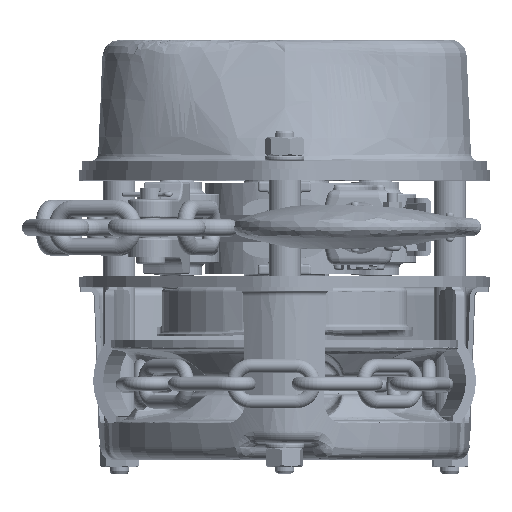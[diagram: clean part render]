
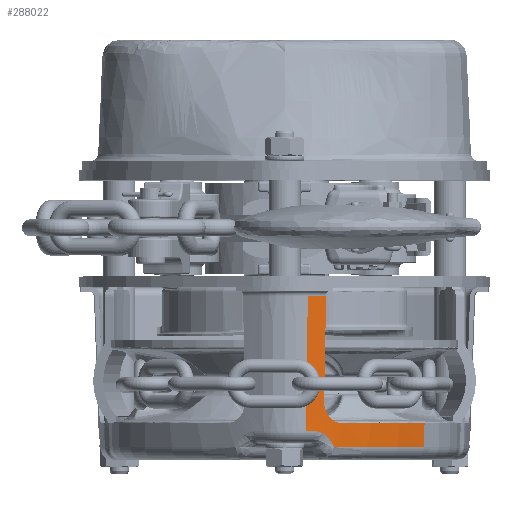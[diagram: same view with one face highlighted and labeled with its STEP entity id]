
A CAD part, top view. The second image highlights one B-rep face of the part: STEP entity #288022.
In plain terms, the highlighted conical face has half-angle 2 degrees and reference radius 151.599 mm.
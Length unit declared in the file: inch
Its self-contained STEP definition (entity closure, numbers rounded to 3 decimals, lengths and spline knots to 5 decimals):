
#2166 = CARTESIAN_POINT ( 'NONE',  ( 2.05686, -2.36853, 1.5554 ) ) ;
#3405 = CARTESIAN_POINT ( 'NONE',  ( 0.56342, -2.16345, 2.953 ) ) ;
#7305 = ORIENTED_EDGE ( 'NONE', *, *, #239595, .T. ) ;
#12205 = EDGE_CURVE ( 'NONE', #100996, #85996, #217280, .T. ) ;
#12337 = DIRECTION ( 'NONE',  ( 0., 0., -1. ) ) ;
#15358 = CARTESIAN_POINT ( 'NONE',  ( 0.61032, -1.83275, 2.93615 ) ) ;
#17294 = AXIS2_PLACEMENT_3D ( 'NONE', #308202, #133644, #12337 ) ;
#25688 = DIRECTION ( 'NONE',  ( 0., 0., 1. ) ) ;
#28071 = VECTOR ( 'NONE', #204523, 39.37008 ) ;
#30036 = CARTESIAN_POINT ( 'NONE',  ( 0.72453, -2.35258, 2.8369 ) ) ;
#38200 = CARTESIAN_POINT ( 'NONE',  ( 0.58512, -1.71376, 2.95762 ) ) ;
#43820 = EDGE_CURVE ( 'NONE', #85996, #129514, #358577, .T. ) ;
#45650 = CARTESIAN_POINT ( 'NONE',  ( 0.58651, -1.73462, 2.95584 ) ) ;
#48350 = ORIENTED_EDGE ( 'NONE', *, *, #237905, .T. ) ;
#52607 = CIRCLE ( 'NONE', #264696, 5.88583 ) ;
#58493 = CARTESIAN_POINT ( 'NONE',  ( 0.64017, -2.22396, 2.89994 ) ) ;
#64900 = EDGE_CURVE ( 'NONE', #127085, #239106, #348826, .T. ) ;
#70385 = CARTESIAN_POINT ( 'NONE',  ( 0.63633, -1.88537, 2.91672 ) ) ;
#72263 = CARTESIAN_POINT ( 'NONE',  ( 0.75779, -1.99191, 2.82903 ) ) ;
#80483 = EDGE_LOOP ( 'NONE', ( #204026, #369962, #214740, #7305, #156990, #48350, #263389, #338842, #238086 ) ) ;
#80821 = VERTEX_POINT ( 'NONE', #183446 ) ;
#85996 = VERTEX_POINT ( 'NONE', #313806 ) ;
#88813 = CARTESIAN_POINT ( 'NONE',  ( 0.44187, -2.1323, 3.03081 ) ) ;
#89752 = VERTEX_POINT ( 'NONE', #108465 ) ;
#100996 = VERTEX_POINT ( 'NONE', #142389 ) ;
#101486 = CARTESIAN_POINT ( 'NONE',  ( -2.6378, -0.13518, -1.99471 ) ) ;
#104730 = CARTESIAN_POINT ( 'NONE',  ( -2.6378, -0.0022, -1.99471 ) ) ;
#108400 = CARTESIAN_POINT ( 'NONE',  ( -2.6378, -2.1323, -1.99471 ) ) ;
#108465 = CARTESIAN_POINT ( 'NONE',  ( 0.44187, -2.1323, 3.03081 ) ) ;
#119174 = CARTESIAN_POINT ( 'NONE',  ( 0.60367, -2.19018, 2.92561 ) ) ;
#122281 = EDGE_CURVE ( 'NONE', #89752, #80821, #170538, .T. ) ;
#127085 = VERTEX_POINT ( 'NONE', #2166 ) ;
#129208 = CARTESIAN_POINT ( 'NONE',  ( 0.73448, -1.98011, 2.84582 ) ) ;
#129514 = VERTEX_POINT ( 'NONE', #201434 ) ;
#131093 = CARTESIAN_POINT ( 'NONE',  ( 0.58548, -1.69291, 2.95825 ) ) ;
#133644 = DIRECTION ( 'NONE',  ( 0., -1., 0. ) ) ;
#136592 = LINE ( 'NONE', #313028, #256573 ) ;
#136949 = FACE_OUTER_BOUND ( 'NONE', #80483, .T. ) ;
#139992 = CARTESIAN_POINT ( 'NONE',  ( 0.61272, -0.13518, 3.00543 ) ) ;
#142011 = CARTESIAN_POINT ( 'NONE',  ( 0.66189, -2.24938, 2.88426 ) ) ;
#142389 = CARTESIAN_POINT ( 'NONE',  ( 0.84008, -2.00787, 2.76931 ) ) ;
#143750 = CARTESIAN_POINT ( 'NONE',  ( 0.58548, -1.69291, 2.95825 ) ) ;
#153919 = CARTESIAN_POINT ( 'NONE',  ( 0.59727, -1.79468, 2.94631 ) ) ;
#156990 = ORIENTED_EDGE ( 'NONE', *, *, #209236, .F. ) ;
#157429 = VERTEX_POINT ( 'NONE', #200347 ) ;
#159496 = CARTESIAN_POINT ( 'NONE',  ( 0.80651, -2.00583, 2.79376 ) ) ;
#163198 = AXIS2_PLACEMENT_3D ( 'NONE', #104730, #252651, #220419 ) ;
#170410 = CARTESIAN_POINT ( 'NONE',  ( 0.50463, -2.13838, 2.99169 ) ) ;
#170538 = B_SPLINE_CURVE_WITH_KNOTS ( 'NONE', 3,
 ( #88813, #232971, #170410, #263357, #3405, #206374, #119174, #346921, #58493, #142011, #257731, #322207, #348801, #373556, #30036, #177896 ),
 .UNSPECIFIED., .F., .F.,
 ( 4, 2, 2, 2, 2, 2, 2, 4 ),
 ( 0., 0.00282, 0.00423, 0.00563, 0.00704, 0.00845, 0.00986, 0.01127 ),
 .UNSPECIFIED. ) ;
#173335 = CARTESIAN_POINT ( 'NONE',  ( 0.34412, -0.13518, 3.17011 ) ) ;
#177896 = CARTESIAN_POINT ( 'NONE',  ( 0.73211, -2.36853, 2.83093 ) ) ;
#181808 = CIRCLE ( 'NONE', #309169, 5.89408 ) ;
#182365 = CARTESIAN_POINT ( 'NONE',  ( 0.61818, -1.85098, 2.9302 ) ) ;
#183446 = CARTESIAN_POINT ( 'NONE',  ( 0.73211, -2.36853, 2.83093 ) ) ;
#186084 = CARTESIAN_POINT ( 'NONE',  ( 0.5926, -1.77504, 2.95019 ) ) ;
#187946 = CARTESIAN_POINT ( 'NONE',  ( 0.70475, -1.96068, 2.86722 ) ) ;
#198279 = DIRECTION ( 'NONE',  ( 0., 1., 0. ) ) ;
#200347 = CARTESIAN_POINT ( 'NONE',  ( 0.30925, -2.1323, 3.10972 ) ) ;
#201434 = CARTESIAN_POINT ( 'NONE',  ( 0.61272, -0.13518, 3.00543 ) ) ;
#204026 = ORIENTED_EDGE ( 'NONE', *, *, #284608, .T. ) ;
#204523 = DIRECTION ( 'NONE',  ( 0.028, 0.999, 0.021 ) ) ;
#206374 = CARTESIAN_POINT ( 'NONE',  ( 0.59066, -2.18045, 2.93457 ) ) ;
#206397 = CARTESIAN_POINT ( 'NONE',  ( 2.12277, -0.0022, 1.60524 ) ) ;
#209236 = EDGE_CURVE ( 'NONE', #157429, #351031, #136592, .T. ) ;
#212683 = CARTESIAN_POINT ( 'NONE',  ( 0.82344, -2.00787, 2.78145 ) ) ;
#214740 = ORIENTED_EDGE ( 'NONE', *, *, #43820, .T. ) ;
#216419 = CARTESIAN_POINT ( 'NONE',  ( 0.84008, -2.00787, 2.76931 ) ) ;
#217280 = B_SPLINE_CURVE_WITH_KNOTS ( 'NONE', 3,
 ( #216419, #212683, #159496, #300015, #72263, #129208, #330358, #271523, #187946, #220125, #303761, #334110, #70385, #275253, #182365, #15358, #243038, #153919, #186084, #45650, #38200, #131093 ),
 .UNSPECIFIED., .F., .F.,
 ( 4, 2, 2, 2, 2, 2, 2, 2, 2, 2, 4 ),
 ( 0.01255, 0.01411, 0.01568, 0.01646, 0.01725, 0.01881, 0.02038, 0.02117, 0.02195, 0.02352, 0.02508 ),
 .UNSPECIFIED. ) ;
#220125 = CARTESIAN_POINT ( 'NONE',  ( 0.68389, -1.94363, 2.88224 ) ) ;
#220419 = DIRECTION ( 'NONE',  ( 0., 0., 1. ) ) ;
#223016 = CARTESIAN_POINT ( 'NONE',  ( -2.6378, -2.36853, -1.99471 ) ) ;
#223569 = CONICAL_SURFACE ( 'NONE', #163198, 5.96847, 0.035 ) ;
#224088 = DIRECTION ( 'NONE',  ( 0., 1., 0. ) ) ;
#227537 = DIRECTION ( 'NONE',  ( 0.017, 0.999, 0.03 ) ) ;
#232971 = CARTESIAN_POINT ( 'NONE',  ( 0.47384, -2.1323, 3.01122 ) ) ;
#237905 = EDGE_CURVE ( 'NONE', #157429, #89752, #181808, .T. ) ;
#238086 = ORIENTED_EDGE ( 'NONE', *, *, #64900, .T. ) ;
#239106 = VERTEX_POINT ( 'NONE', #321767 ) ;
#239595 = EDGE_CURVE ( 'NONE', #129514, #351031, #254658, .T. ) ;
#241903 = DIRECTION ( 'NONE',  ( 0., -1., 0. ) ) ;
#243038 = CARTESIAN_POINT ( 'NONE',  ( 0.60673, -1.82331, 2.93891 ) ) ;
#248865 = DIRECTION ( 'NONE',  ( 0., 0., 1. ) ) ;
#252651 = DIRECTION ( 'NONE',  ( 0., 1., 0. ) ) ;
#254658 = CIRCLE ( 'NONE', #297236, 5.96382 ) ;
#256573 = VECTOR ( 'NONE', #227537, 39.37008 ) ;
#257731 = CARTESIAN_POINT ( 'NONE',  ( 0.672, -2.2629, 2.87683 ) ) ;
#259460 = CARTESIAN_POINT ( 'NONE',  ( 0.59456, -1.17367, 2.97398 ) ) ;
#263357 = CARTESIAN_POINT ( 'NONE',  ( 0.54916, -2.15617, 2.96251 ) ) ;
#263389 = ORIENTED_EDGE ( 'NONE', *, *, #122281, .T. ) ;
#264696 = AXIS2_PLACEMENT_3D ( 'NONE', #223016, #198279, #25688 ) ;
#271523 = CARTESIAN_POINT ( 'NONE',  ( 0.71194, -1.96595, 2.86205 ) ) ;
#275253 = CARTESIAN_POINT ( 'NONE',  ( 0.62246, -1.8598, 2.927 ) ) ;
#283494 = CIRCLE ( 'NONE', #17294, 5.89843 ) ;
#284608 = EDGE_CURVE ( 'NONE', #239106, #100996, #283494, .T. ) ;
#288022 = ADVANCED_FACE ( 'NONE', ( #136949 ), #223569, .T. ) ;
#293530 = CARTESIAN_POINT ( 'NONE',  ( 0.60364, -0.65443, 2.9897 ) ) ;
#297236 = AXIS2_PLACEMENT_3D ( 'NONE', #101486, #241903, #302618 ) ;
#300015 = CARTESIAN_POINT ( 'NONE',  ( 0.77375, -1.99783, 2.8175 ) ) ;
#302618 = DIRECTION ( 'NONE',  ( 0., 0., 1. ) ) ;
#303761 = CARTESIAN_POINT ( 'NONE',  ( 0.6709, -1.93063, 2.8916 ) ) ;
#308202 = CARTESIAN_POINT ( 'NONE',  ( -2.6378, -2.00787, -1.99471 ) ) ;
#309169 = AXIS2_PLACEMENT_3D ( 'NONE', #108400, #224088, #248865 ) ;
#313028 = CARTESIAN_POINT ( 'NONE',  ( 0.34644, -0.0022, 3.17414 ) ) ;
#313806 = CARTESIAN_POINT ( 'NONE',  ( 0.58548, -1.69291, 2.95825 ) ) ;
#321767 = CARTESIAN_POINT ( 'NONE',  ( 2.0669, -2.00787, 1.563 ) ) ;
#322207 = CARTESIAN_POINT ( 'NONE',  ( 0.69099, -2.29129, 2.86267 ) ) ;
#330358 = CARTESIAN_POINT ( 'NONE',  ( 0.72679, -1.97566, 2.85136 ) ) ;
#334110 = CARTESIAN_POINT ( 'NONE',  ( 0.64692, -1.90126, 2.90898 ) ) ;
#338842 = ORIENTED_EDGE ( 'NONE', *, *, #363049, .T. ) ;
#346921 = CARTESIAN_POINT ( 'NONE',  ( 0.62852, -2.21202, 2.90823 ) ) ;
#348801 = CARTESIAN_POINT ( 'NONE',  ( 0.69988, -2.30618, 2.85593 ) ) ;
#348826 = LINE ( 'NONE', #206397, #28071 ) ;
#351031 = VERTEX_POINT ( 'NONE', #173335 ) ;
#358577 = B_SPLINE_CURVE_WITH_KNOTS ( 'NONE', 3,
 ( #143750, #259460, #293530, #139992 ),
 .UNSPECIFIED., .F., .F.,
 ( 4, 4 ),
 ( 0., 0.03959 ),
 .UNSPECIFIED. ) ;
#363049 = EDGE_CURVE ( 'NONE', #80821, #127085, #52607, .T. ) ;
#369962 = ORIENTED_EDGE ( 'NONE', *, *, #12205, .T. ) ;
#373556 = CARTESIAN_POINT ( 'NONE',  ( 0.71666, -2.33686, 2.84303 ) ) ;
